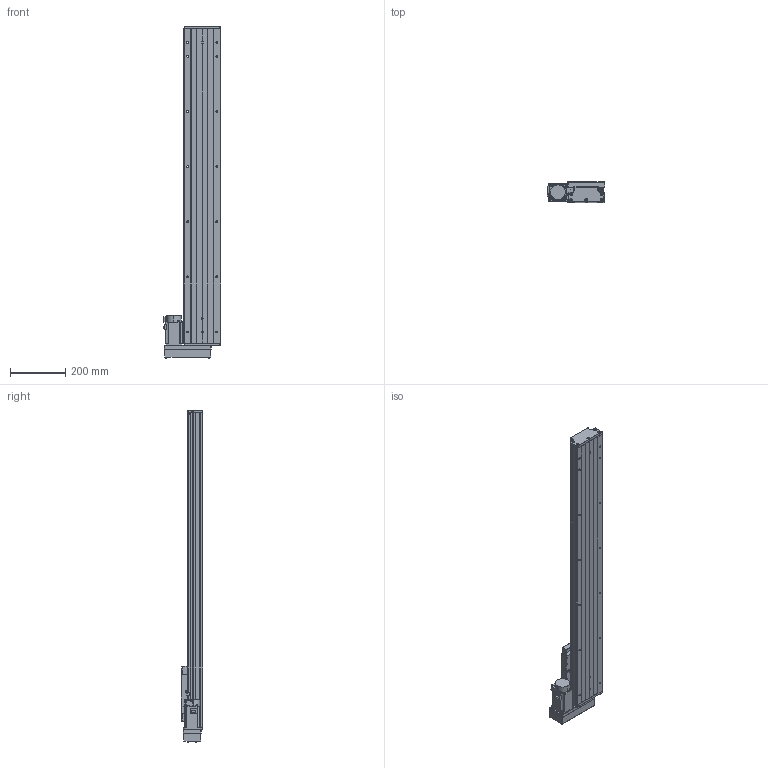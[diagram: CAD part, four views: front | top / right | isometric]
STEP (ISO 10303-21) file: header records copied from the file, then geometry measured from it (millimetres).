
FILE_DESCRIPTION (( 'STEP AP203' ), '1' );
FILE_NAME ('GTH14-900-BL-M40-C4.step', '2023-06-30T08:41:46', ( '微软用户' ), ( '微软中国' ), 'SwSTEP 2.0', 'SolidWorks 2020', '' );
FILE_SCHEMA (( 'CONFIG_CONTROL_DESIGN' ));
Length unit declared in the file: millimetre
Products named in the file (19): GBT 70.1-M3℅5; GTH14-900-BL-M40-C4; GTH14-015-2_CTHA86-015-2; GTH14-005; GBT77-2000 M3×3; GB1155-6X6; GTH14-031; GBT70.1 M5℅16; GBT 70.2-M3¡Á5_M3¡Á6; CTHA60-017; す晦芛蹟隊 M3℅5; GTH14-001_900; EE_SX911P_R; HG-KN43J-S100; GTH14-002_GTH14-002; CTHA60-016; GTH14-033; GBT 70.2-M4¡Á35_M4¡Á35; GTH14-004
Assembly tree (58 placements, depth 2):
  GTH14-900-BL-M40-C4
    GTH14-001_900
    GTH14-002_GTH14-002
    GTH14-004
    GTH14-005
    GB1155-6X6  x2
    GBT70.1 M5℅16  x10
    CTHA60-017  x3
    EE_SX911P_R  x3
    CTHA60-016  x2
    GBT 70.1-M3℅5  x6
    GBT77-2000 M3×3  x6
    GTH14-031
    GBT 70.2-M3¡Á5_M3¡Á6  x8
    す晦芛蹟隊 M3℅5  x6
    HG-KN43J-S100
    GBT 70.2-M4¡Á35_M4¡Á35  x4
    GTH14-015-2_CTHA86-015-2
    GTH14-033
Bounding box: 209.3 x 78 x 1204.2 mm (x, y, z)
Volume: 6483555.9 mm3; surface area: 1056379 mm2
Topology: 61 solids, 61 shells, 2473 faces, 5881 edges, 3626 vertices
Faces by surface type: plane 1311, cylinder 672, cone 314, torus 124, sphere 32, bspline 20
Entity records: 44774 total; most frequent: CARTESIAN_POINT 9957, DIRECTION 6609, ORIENTED_EDGE 6452, EDGE_CURVE 3226, AXIS2_PLACEMENT_3D 2270, VECTOR 2069, LINE 2069, VERTEX_POINT 2044
